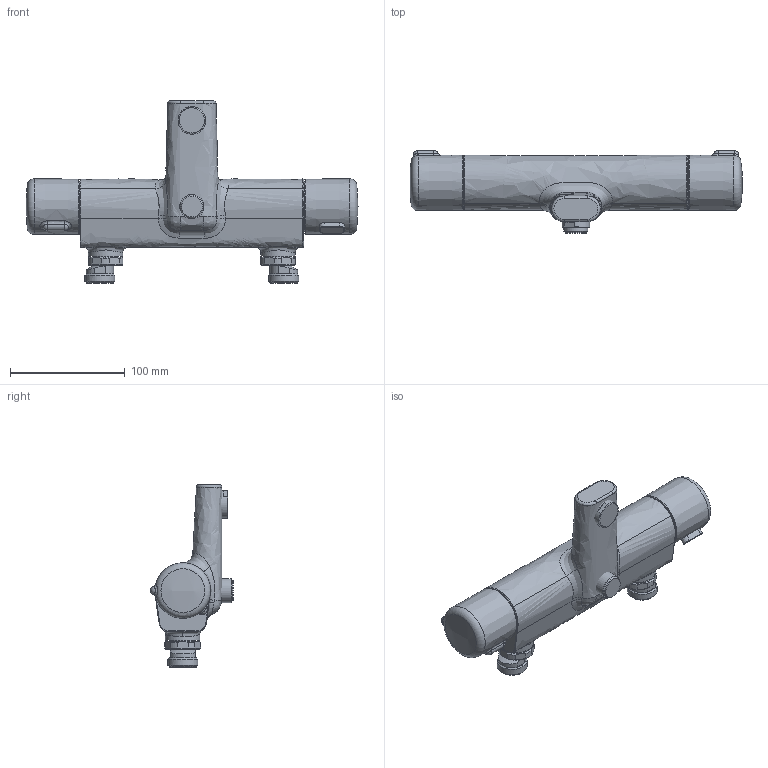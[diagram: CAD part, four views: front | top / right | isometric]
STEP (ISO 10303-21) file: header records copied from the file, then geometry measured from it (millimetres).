
FILE_DESCRIPTION (( 'STEP AP214' ), '1' );
FILE_NAME ('7443(2016).STEP', '2018-01-15T12:26:00', ( '' ), ( '' ), 'SwSTEP 2.0', 'SolidWorks 2016', '' );
FILE_SCHEMA (( 'AUTOMOTIVE_DESIGN' ));
Length unit declared in the file: millimetre
Products named in the file (1): 7443(2016)
Bounding box: 288.86 x 71.99 x 158.61 mm (x, y, z)
Volume: 1072587.7 mm3; surface area: 107231.1 mm2
Topology: 6 solids, 6 shells, 173 faces, 420 edges, 266 vertices
Faces by surface type: plane 48, bspline 48, cylinder 36, cone 27, sphere 8, torus 6
Full cylindrical faces by diameter (mm): 18 x1, 21 x1, 22 x2, 24 x2, 24.1 x1, 26 x2, 30 x2, 43.029 x1
Entity records: 14380 total; most frequent: CARTESIAN_POINT 9061, ORIENTED_EDGE 712, DIRECTION 584, EDGE_CURVE 356, AXIS2_PLACEMENT_3D 262, VERTEX_POINT 240, EDGE_LOOP 218, FACE_OUTER_BOUND 190
